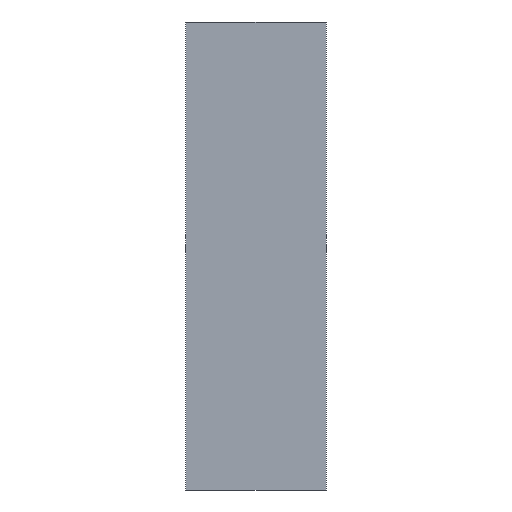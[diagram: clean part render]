
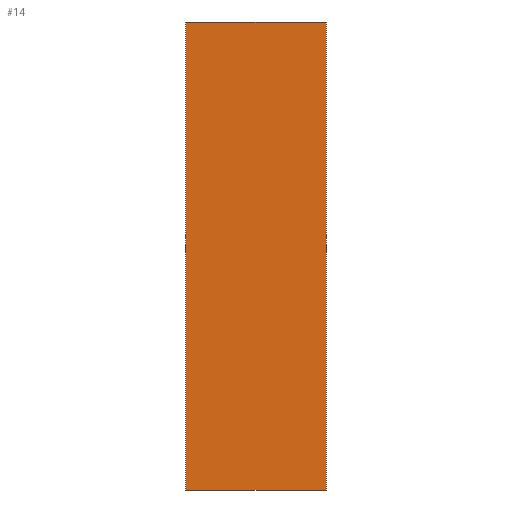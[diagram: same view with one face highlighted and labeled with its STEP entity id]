
A CAD part, front view. The second image highlights one B-rep face of the part: STEP entity #14.
In plain terms, the highlighted planar face has unit normal (0, -1, 0).
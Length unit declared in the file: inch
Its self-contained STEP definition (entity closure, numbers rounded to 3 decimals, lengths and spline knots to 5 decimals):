
#14=ADVANCED_FACE('',(#20),#88,.T.);
#20=FACE_OUTER_BOUND('',#26,.T.);
#26=EDGE_LOOP('',(#32,#33,#34,#35));
#32=ORIENTED_EDGE('',*,*,#56,.T.);
#33=ORIENTED_EDGE('',*,*,#65,.T.);
#34=ORIENTED_EDGE('',*,*,#60,.F.);
#35=ORIENTED_EDGE('',*,*,#64,.F.);
#56=EDGE_CURVE('',#80,#81,#68,.T.);
#60=EDGE_CURVE('',#84,#85,#72,.T.);
#64=EDGE_CURVE('',#80,#84,#76,.T.);
#65=EDGE_CURVE('',#81,#85,#77,.T.);
#68=B_SPLINE_CURVE_WITH_KNOTS('',1,(#217,#218),.UNSPECIFIED.,.F.,.F.,(2,
2),(0.,3.),.UNSPECIFIED.);
#72=B_SPLINE_CURVE_WITH_KNOTS('',1,(#225,#226),.UNSPECIFIED.,.F.,.F.,(2,
2),(0.,3.),.UNSPECIFIED.);
#76=B_SPLINE_CURVE_WITH_KNOTS('',1,(#233,#234),.UNSPECIFIED.,.F.,.F.,(2,
2),(0.,10.),.UNSPECIFIED.);
#77=B_SPLINE_CURVE_WITH_KNOTS('',1,(#235,#236),.UNSPECIFIED.,.F.,.F.,(2,
2),(0.,10.),.UNSPECIFIED.);
#80=VERTEX_POINT('',#209);
#81=VERTEX_POINT('',#210);
#84=VERTEX_POINT('',#213);
#85=VERTEX_POINT('',#214);
#88=PLANE('',#185);
#185=AXIS2_PLACEMENT_3D('',#203,#194,$);
#194=DIRECTION('',(0.,-1.,0.));
#203=CARTESIAN_POINT('',(0.,0.,0.));
#209=CARTESIAN_POINT('',(0.,0.,0.));
#210=CARTESIAN_POINT('',(3.,0.,0.));
#213=CARTESIAN_POINT('',(0.,0.,10.));
#214=CARTESIAN_POINT('',(3.,0.,10.));
#217=CARTESIAN_POINT('',(0.,0.,0.));
#218=CARTESIAN_POINT('',(3.,0.,0.));
#225=CARTESIAN_POINT('',(0.,0.,10.));
#226=CARTESIAN_POINT('',(3.,0.,10.));
#233=CARTESIAN_POINT('',(0.,0.,0.));
#234=CARTESIAN_POINT('',(0.,0.,10.));
#235=CARTESIAN_POINT('',(3.,0.,0.));
#236=CARTESIAN_POINT('',(3.,0.,10.));
